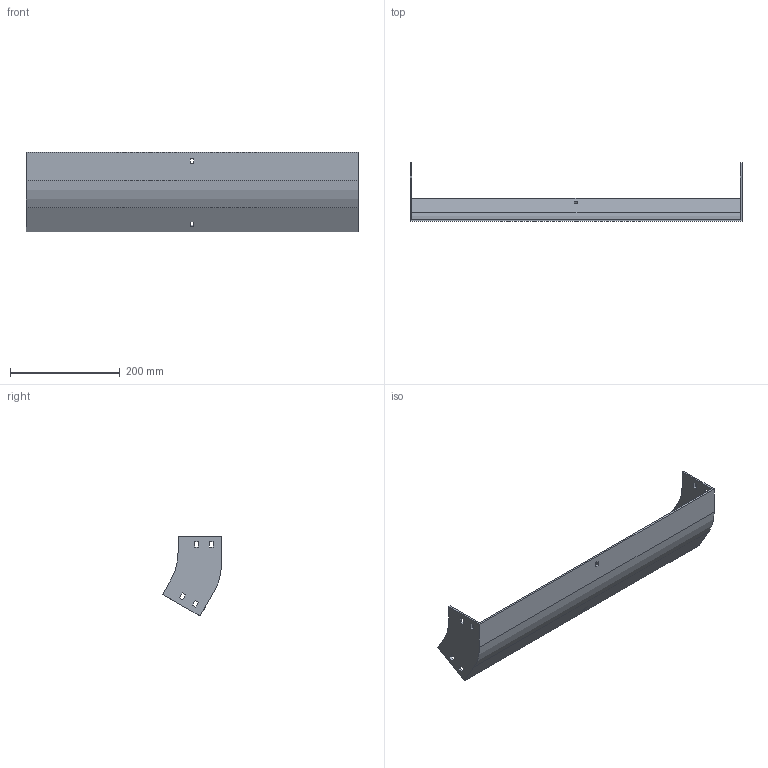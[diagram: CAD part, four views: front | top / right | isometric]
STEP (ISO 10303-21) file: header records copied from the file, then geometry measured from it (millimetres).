
FILE_DESCRIPTION (( 'STEP AP214' ), '1' );
FILE_NAME ('32F1C600.step', '2025-02-21T12:58:50', ( '' ), ( '' ), 'SwSTEP 2.0', 'SolidWorks 2023', '' );
FILE_SCHEMA (( 'AUTOMOTIVE_DESIGN' ));
Length unit declared in the file: millimetre
Products named in the file (1): 32F1C600
Bounding box: 604 x 107.4 x 145.48 mm (x, y, z)
Volume: 393474 mm3; surface area: 232089.2 mm2
Topology: 1 solids, 1 shells, 58 faces, 168 edges, 112 vertices
Faces by surface type: plane 54, cylinder 4
Entity records: 1943 total; most frequent: CARTESIAN_POINT 339, ORIENTED_EDGE 336, DIRECTION 294, EDGE_CURVE 168, LINE 160, VECTOR 160, VERTEX_POINT 112, EDGE_LOOP 78
